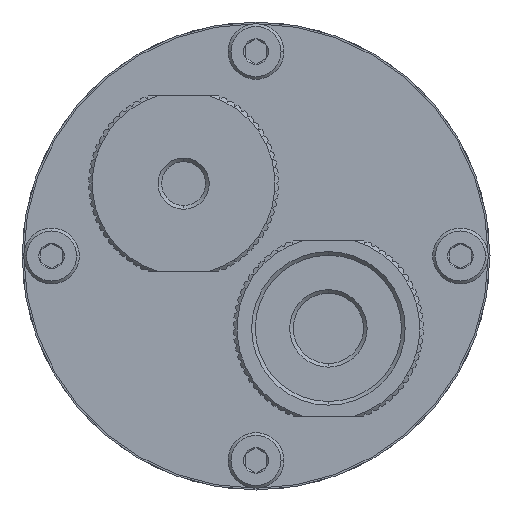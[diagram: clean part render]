
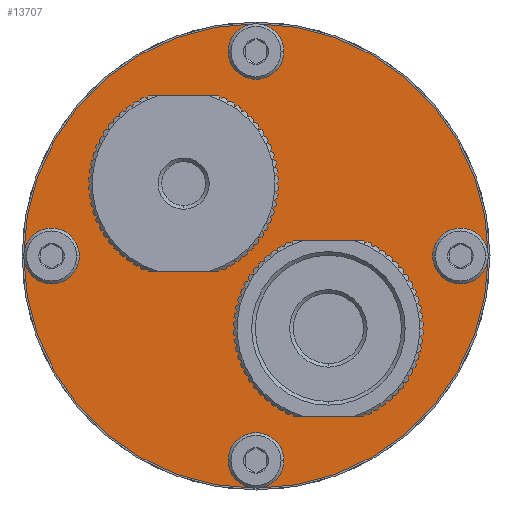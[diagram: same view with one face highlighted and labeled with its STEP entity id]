
A CAD part, front view. The second image highlights one B-rep face of the part: STEP entity #13707.
In plain terms, the highlighted planar face has unit normal (0, -1, 0).
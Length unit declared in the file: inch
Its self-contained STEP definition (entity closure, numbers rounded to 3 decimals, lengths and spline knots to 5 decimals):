
#247 = AXIS2_PLACEMENT_3D ( 'NONE', #24939, #17774, #1294 ) ;
#286 = VERTEX_POINT ( 'NONE', #26489 ) ;
#735 = CIRCLE ( 'NONE', #25958, 0.09843 ) ;
#1048 = VERTEX_POINT ( 'NONE', #22706 ) ;
#1294 = DIRECTION ( 'NONE',  ( 0., 0., 1. ) ) ;
#1541 = EDGE_CURVE ( 'NONE', #18182, #26195, #15598, .T. ) ;
#1704 = AXIS2_PLACEMENT_3D ( 'NONE', #2730, #21467, #4679 ) ;
#1724 = ORIENTED_EDGE ( 'NONE', *, *, #18789, .F. ) ;
#1753 = AXIS2_PLACEMENT_3D ( 'NONE', #10808, #27431, #13198 ) ;
#1902 = AXIS2_PLACEMENT_3D ( 'NONE', #20008, #20404, #17616 ) ;
#2066 = VERTEX_POINT ( 'NONE', #27610 ) ;
#2091 = ORIENTED_EDGE ( 'NONE', *, *, #21626, .F. ) ;
#2542 = ORIENTED_EDGE ( 'NONE', *, *, #3182, .F. ) ;
#2708 = CARTESIAN_POINT ( 'NONE',  ( 1.86509, -1.26793, -0.68398 ) ) ;
#2730 = CARTESIAN_POINT ( 'NONE',  ( 1.86509, -1.26793, -0.13359 ) ) ;
#2803 = EDGE_CURVE ( 'NONE', #2066, #11992, #7006, .T. ) ;
#3182 = EDGE_CURVE ( 'NONE', #30142, #27600, #3334, .T. ) ;
#3334 = CIRCLE ( 'NONE', #11562, 0.04134 ) ;
#3511 = EDGE_CURVE ( 'NONE', #5290, #17987, #22194, .T. ) ;
#4007 = AXIS2_PLACEMENT_3D ( 'NONE', #18490, #4286, #6651 ) ;
#4286 = DIRECTION ( 'NONE',  ( 0., -1., 0. ) ) ;
#4465 = CARTESIAN_POINT ( 'NONE',  ( 2.41548, -1.26793, -0.68398 ) ) ;
#4598 = AXIS2_PLACEMENT_3D ( 'NONE', #4465, #9235, #10201 ) ;
#4601 = CARTESIAN_POINT ( 'NONE',  ( 2.05996, -1.26793, -0.78043 ) ) ;
#4679 = DIRECTION ( 'NONE',  ( 0., 0., 1. ) ) ;
#4837 = VERTEX_POINT ( 'NONE', #22629 ) ;
#4925 = ORIENTED_EDGE ( 'NONE', *, *, #20685, .T. ) ;
#5056 = FACE_BOUND ( 'NONE', #22048, .T. ) ;
#5073 = DIRECTION ( 'NONE',  ( 0., 0., 1. ) ) ;
#5290 = VERTEX_POINT ( 'NONE', #10244 ) ;
#5362 = AXIS2_PLACEMENT_3D ( 'NONE', #9396, #11864, #14356 ) ;
#5631 = CARTESIAN_POINT ( 'NONE',  ( 2.05996, -1.26793, -0.87886 ) ) ;
#5674 = DIRECTION ( 'NONE',  ( 0., 0., 1. ) ) ;
#5763 = ORIENTED_EDGE ( 'NONE', *, *, #27361, .F. ) ;
#6116 = VERTEX_POINT ( 'NONE', #10595 ) ;
#6345 = EDGE_CURVE ( 'NONE', #17987, #5290, #27250, .T. ) ;
#6378 = CARTESIAN_POINT ( 'NONE',  ( 1.86509, -1.26793, -0.13359 ) ) ;
#6651 = DIRECTION ( 'NONE',  ( 0., 0., 1. ) ) ;
#7006 = CIRCLE ( 'NONE', #23724, 0.6252 ) ;
#7140 = ORIENTED_EDGE ( 'NONE', *, *, #11056, .F. ) ;
#7981 = ORIENTED_EDGE ( 'NONE', *, *, #25994, .F. ) ;
#8222 = DIRECTION ( 'NONE',  ( 0., 0., 1. ) ) ;
#9122 = FACE_BOUND ( 'NONE', #15627, .T. ) ;
#9235 = DIRECTION ( 'NONE',  ( 0., -1., 0. ) ) ;
#9345 = CARTESIAN_POINT ( 'NONE',  ( 1.67022, -1.26793, -0.48911 ) ) ;
#9354 = AXIS2_PLACEMENT_3D ( 'NONE', #19789, #12499, #26950 ) ;
#9396 = CARTESIAN_POINT ( 'NONE',  ( 1.86509, -1.26793, -0.68398 ) ) ;
#10145 = CARTESIAN_POINT ( 'NONE',  ( 1.31469, -1.26793, -0.72532 ) ) ;
#10201 = DIRECTION ( 'NONE',  ( 0., 0., 1. ) ) ;
#10244 = CARTESIAN_POINT ( 'NONE',  ( 2.41548, -1.26793, -0.64265 ) ) ;
#10289 = VERTEX_POINT ( 'NONE', #19025 ) ;
#10587 = FACE_BOUND ( 'NONE', #30683, .T. ) ;
#10595 = CARTESIAN_POINT ( 'NONE',  ( 1.86509, -1.26793, -1.27572 ) ) ;
#10808 = CARTESIAN_POINT ( 'NONE',  ( 1.31469, -1.26793, -0.68398 ) ) ;
#11056 = EDGE_CURVE ( 'NONE', #10289, #1048, #735, .T. ) ;
#11494 = DIRECTION ( 'NONE',  ( 0., -1., 0. ) ) ;
#11562 = AXIS2_PLACEMENT_3D ( 'NONE', #16067, #23434, #16372 ) ;
#11864 = DIRECTION ( 'NONE',  ( 0., -1., 0. ) ) ;
#11992 = VERTEX_POINT ( 'NONE', #28526 ) ;
#12499 = DIRECTION ( 'NONE',  ( 0., -1., 0. ) ) ;
#12785 = CARTESIAN_POINT ( 'NONE',  ( 2.05996, -1.26793, -0.97728 ) ) ;
#13198 = DIRECTION ( 'NONE',  ( 0., 0., 1. ) ) ;
#13707 = ADVANCED_FACE ( 'NONE', ( #16911, #5056, #21736, #30263, #10587, #9122, #19909 ), #19056, .T. ) ;
#14356 = DIRECTION ( 'NONE',  ( 0., 0., 1. ) ) ;
#14423 = AXIS2_PLACEMENT_3D ( 'NONE', #29406, #24972, #5674 ) ;
#15350 = DIRECTION ( 'NONE',  ( 0., 0., 1. ) ) ;
#15598 = CIRCLE ( 'NONE', #9354, 0.09843 ) ;
#15627 = EDGE_LOOP ( 'NONE', ( #29547, #19252 ) ) ;
#15806 = VERTEX_POINT ( 'NONE', #27630 ) ;
#15845 = CIRCLE ( 'NONE', #25900, 0.09843 ) ;
#16067 = CARTESIAN_POINT ( 'NONE',  ( 1.31469, -1.26793, -0.68398 ) ) ;
#16372 = DIRECTION ( 'NONE',  ( 0., 0., 1. ) ) ;
#16777 = EDGE_CURVE ( 'NONE', #6116, #15806, #26509, .T. ) ;
#16911 = FACE_BOUND ( 'NONE', #25914, .T. ) ;
#17616 = DIRECTION ( 'NONE',  ( 0., 0., 1. ) ) ;
#17749 = CARTESIAN_POINT ( 'NONE',  ( 1.67022, -1.26793, -0.48911 ) ) ;
#17774 = DIRECTION ( 'NONE',  ( 0., -1., 0. ) ) ;
#17846 = CIRCLE ( 'NONE', #19086, 0.04134 ) ;
#17987 = VERTEX_POINT ( 'NONE', #21211 ) ;
#18017 = CIRCLE ( 'NONE', #26670, 0.09843 ) ;
#18182 = VERTEX_POINT ( 'NONE', #12785 ) ;
#18424 = CIRCLE ( 'NONE', #1704, 0.04134 ) ;
#18490 = CARTESIAN_POINT ( 'NONE',  ( 1.86509, -1.26793, -1.23438 ) ) ;
#18789 = EDGE_CURVE ( 'NONE', #4837, #286, #17846, .T. ) ;
#19025 = CARTESIAN_POINT ( 'NONE',  ( 1.67022, -1.26793, -0.58754 ) ) ;
#19056 = PLANE ( 'NONE',  #5362 ) ;
#19086 = AXIS2_PLACEMENT_3D ( 'NONE', #6378, #30224, #30018 ) ;
#19252 = ORIENTED_EDGE ( 'NONE', *, *, #16777, .F. ) ;
#19531 = EDGE_CURVE ( 'NONE', #15806, #6116, #24894, .T. ) ;
#19789 = CARTESIAN_POINT ( 'NONE',  ( 2.05996, -1.26793, -0.87886 ) ) ;
#19824 = ORIENTED_EDGE ( 'NONE', *, *, #3511, .F. ) ;
#19909 = FACE_OUTER_BOUND ( 'NONE', #19934, .T. ) ;
#19934 = EDGE_LOOP ( 'NONE', ( #4925, #30324 ) ) ;
#20008 = CARTESIAN_POINT ( 'NONE',  ( 2.41548, -1.26793, -0.68398 ) ) ;
#20404 = DIRECTION ( 'NONE',  ( 0., -1., 0. ) ) ;
#20574 = ORIENTED_EDGE ( 'NONE', *, *, #23936, .F. ) ;
#20685 = EDGE_CURVE ( 'NONE', #11992, #2066, #22586, .T. ) ;
#20770 = EDGE_LOOP ( 'NONE', ( #1724, #20574 ) ) ;
#21211 = CARTESIAN_POINT ( 'NONE',  ( 2.41548, -1.26793, -0.72532 ) ) ;
#21467 = DIRECTION ( 'NONE',  ( 0., -1., 0. ) ) ;
#21626 = EDGE_CURVE ( 'NONE', #26195, #18182, #15845, .T. ) ;
#21736 = FACE_BOUND ( 'NONE', #27138, .T. ) ;
#22048 = EDGE_LOOP ( 'NONE', ( #2091, #23152 ) ) ;
#22194 = CIRCLE ( 'NONE', #1902, 0.04134 ) ;
#22226 = DIRECTION ( 'NONE',  ( 0., -1., 0. ) ) ;
#22586 = CIRCLE ( 'NONE', #247, 0.6252 ) ;
#22629 = CARTESIAN_POINT ( 'NONE',  ( 1.86509, -1.26793, -0.09225 ) ) ;
#22706 = CARTESIAN_POINT ( 'NONE',  ( 1.67022, -1.26793, -0.39069 ) ) ;
#23152 = ORIENTED_EDGE ( 'NONE', *, *, #1541, .F. ) ;
#23434 = DIRECTION ( 'NONE',  ( 0., -1., 0. ) ) ;
#23724 = AXIS2_PLACEMENT_3D ( 'NONE', #2708, #26552, #5073 ) ;
#23936 = EDGE_CURVE ( 'NONE', #286, #4837, #18424, .T. ) ;
#24894 = CIRCLE ( 'NONE', #4007, 0.04134 ) ;
#24939 = CARTESIAN_POINT ( 'NONE',  ( 1.86509, -1.26793, -0.68398 ) ) ;
#24972 = DIRECTION ( 'NONE',  ( 0., -1., 0. ) ) ;
#25900 = AXIS2_PLACEMENT_3D ( 'NONE', #5631, #22226, #15350 ) ;
#25914 = EDGE_LOOP ( 'NONE', ( #5763, #7140 ) ) ;
#25958 = AXIS2_PLACEMENT_3D ( 'NONE', #9345, #11494, #28419 ) ;
#25994 = EDGE_CURVE ( 'NONE', #27600, #30142, #29553, .T. ) ;
#26195 = VERTEX_POINT ( 'NONE', #4601 ) ;
#26489 = CARTESIAN_POINT ( 'NONE',  ( 1.86509, -1.26793, -0.17493 ) ) ;
#26509 = CIRCLE ( 'NONE', #14423, 0.04134 ) ;
#26552 = DIRECTION ( 'NONE',  ( 0., -1., 0. ) ) ;
#26670 = AXIS2_PLACEMENT_3D ( 'NONE', #17749, #29650, #8222 ) ;
#26950 = DIRECTION ( 'NONE',  ( 0., 0., 1. ) ) ;
#27138 = EDGE_LOOP ( 'NONE', ( #19824, #30128 ) ) ;
#27250 = CIRCLE ( 'NONE', #4598, 0.04134 ) ;
#27361 = EDGE_CURVE ( 'NONE', #1048, #10289, #18017, .T. ) ;
#27431 = DIRECTION ( 'NONE',  ( 0., -1., 0. ) ) ;
#27600 = VERTEX_POINT ( 'NONE', #28193 ) ;
#27610 = CARTESIAN_POINT ( 'NONE',  ( 1.86509, -1.26793, -1.30918 ) ) ;
#27630 = CARTESIAN_POINT ( 'NONE',  ( 1.86509, -1.26793, -1.19304 ) ) ;
#28193 = CARTESIAN_POINT ( 'NONE',  ( 1.31469, -1.26793, -0.64265 ) ) ;
#28419 = DIRECTION ( 'NONE',  ( 0., 0., 1. ) ) ;
#28526 = CARTESIAN_POINT ( 'NONE',  ( 1.86509, -1.26793, -0.05879 ) ) ;
#29406 = CARTESIAN_POINT ( 'NONE',  ( 1.86509, -1.26793, -1.23438 ) ) ;
#29547 = ORIENTED_EDGE ( 'NONE', *, *, #19531, .F. ) ;
#29553 = CIRCLE ( 'NONE', #1753, 0.04134 ) ;
#29650 = DIRECTION ( 'NONE',  ( 0., -1., 0. ) ) ;
#30018 = DIRECTION ( 'NONE',  ( 0., 0., 1. ) ) ;
#30128 = ORIENTED_EDGE ( 'NONE', *, *, #6345, .F. ) ;
#30142 = VERTEX_POINT ( 'NONE', #10145 ) ;
#30224 = DIRECTION ( 'NONE',  ( 0., -1., 0. ) ) ;
#30263 = FACE_BOUND ( 'NONE', #20770, .T. ) ;
#30324 = ORIENTED_EDGE ( 'NONE', *, *, #2803, .T. ) ;
#30683 = EDGE_LOOP ( 'NONE', ( #7981, #2542 ) ) ;
